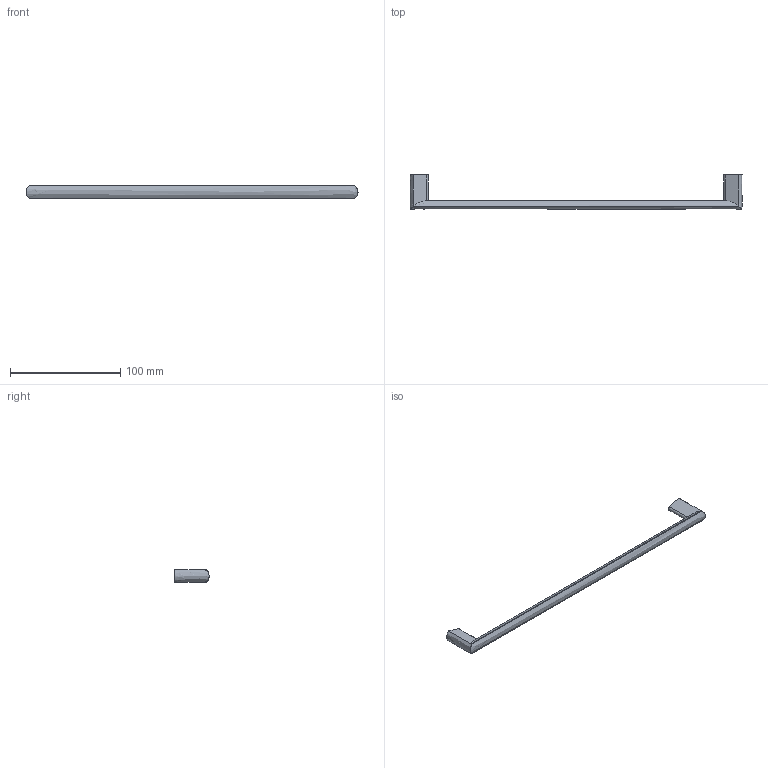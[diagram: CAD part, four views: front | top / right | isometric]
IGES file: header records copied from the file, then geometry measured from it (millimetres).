
Start section: Data from Parasolid IGES Translator 15.0.47, Copyright(c) 2006 Siemens P LM Software. All Rights Reserved.
Global section: file name: 9113182.igs; native system:  By UGS Corp.; preprocessor: XPlus GENERIC/IGES 3.0; author: Noname; organization: Noname; date: 20140122.153239; units: millimetre
Bounding box: 301 x 31 x 11 mm (x, y, z)
Surface area: 11455.1 mm2 (no closed solid volume)
Topology: 0 solids, 0 shells, 27 faces, 130 edges, 128 vertices
Faces by surface type: revolution 14, extrusion 13
